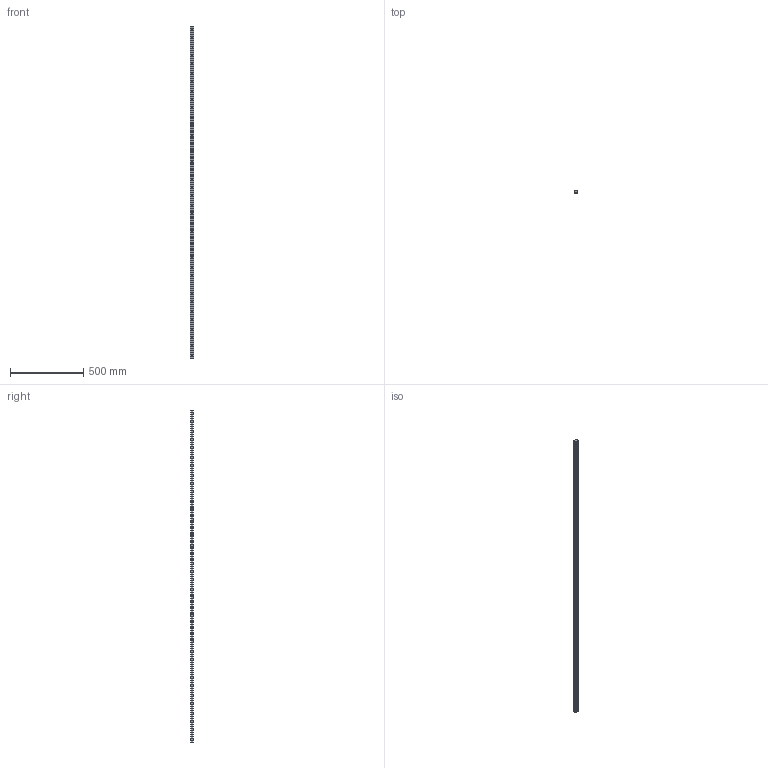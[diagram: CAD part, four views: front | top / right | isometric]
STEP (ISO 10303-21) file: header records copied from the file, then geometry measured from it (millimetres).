
FILE_DESCRIPTION (( 'STEP AP203' ), '1' );
FILE_NAME ('L1016.BRF25-2260.step', '2019-06-13T08:41:34', ( '' ), ( '' ), 'SwSTEP 2.0', 'SolidWorks 2017', '' );
FILE_SCHEMA (( 'CONFIG_CONTROL_DESIGN' ));
Length unit declared in the file: millimetre
Products named in the file (1): L1016.BRF25-2260
Bounding box: 23 x 19.2 x 2260 mm (x, y, z)
Volume: 862845.4 mm3; surface area: 208178.9 mm2
Topology: 1 solids, 1 shells, 292 faces, 680 edges, 390 vertices
Faces by surface type: cylinder 156, cone 76, plane 60
Entity records: 7893 total; most frequent: DIRECTION 1502, CARTESIAN_POINT 1287, ORIENTED_EDGE 1208, AXIS2_PLACEMENT_3D 605, EDGE_CURVE 604, VERTEX_POINT 390, EDGE_LOOP 368, CIRCLE 312
